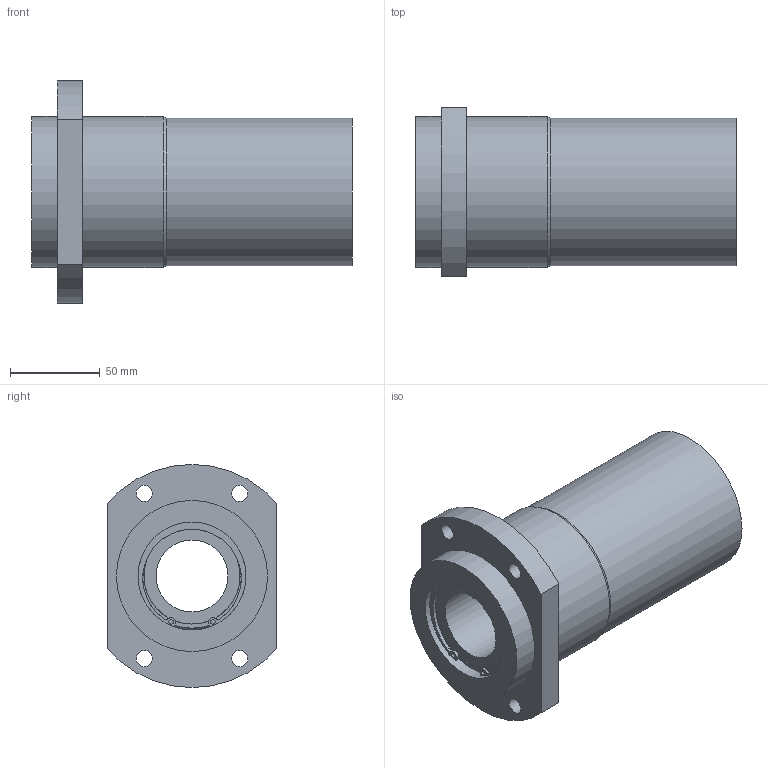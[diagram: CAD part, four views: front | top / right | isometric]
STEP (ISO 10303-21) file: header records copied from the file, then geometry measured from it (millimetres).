
FILE_DESCRIPTION((''),'2;1');
FILE_NAME('C:\Documents and Settings\土屋\My Documents\土屋移動用フォルダ\製品 (図面)\カタログ用3D\変換ファイル\OZAK_3D-CAD(STEP形式)\Part1.-Linear Bearings_ﾘﾆｱﾍﾞｱﾘﾝｸﾞ\09_Maintenance Free_ﾒｲﾝﾃﾅﾝｽﾌﾘｰ\L2017-09-22T13:36:00','2017-09-22T13:36:00',('y'),(''),'Autodesk Inventor 11','Autodesk Inventor 11','');
FILE_SCHEMA(('AUTOMOTIVE_DESIGN { 1 0 10303 214 1 1 1 1 }'));
Length unit declared in the file: millimetre
Products named in the file (1): LFWB40MF
Bounding box: 178 x 94 x 124 mm (x, y, z)
Volume: 783184.2 mm3; surface area: 94825.4 mm2
Topology: 1 solids, 3 shells, 71 faces, 183 edges, 114 vertices
Faces by surface type: plane 29, cylinder 25, bspline 14, torus 2, cone 1
Full cylindrical faces by diameter (mm): 2.5 x2, 9 x4, 40 x1, 53.4 x2, 57 x2, 60 x4, 82 x1, 84 x2
Entity records: 2084 total; most frequent: CARTESIAN_POINT 452, DIRECTION 364, ORIENTED_EDGE 284, AXIS2_PLACEMENT_3D 164, EDGE_CURVE 142, EDGE_LOOP 118, CIRCLE 106, VERTEX_POINT 98
